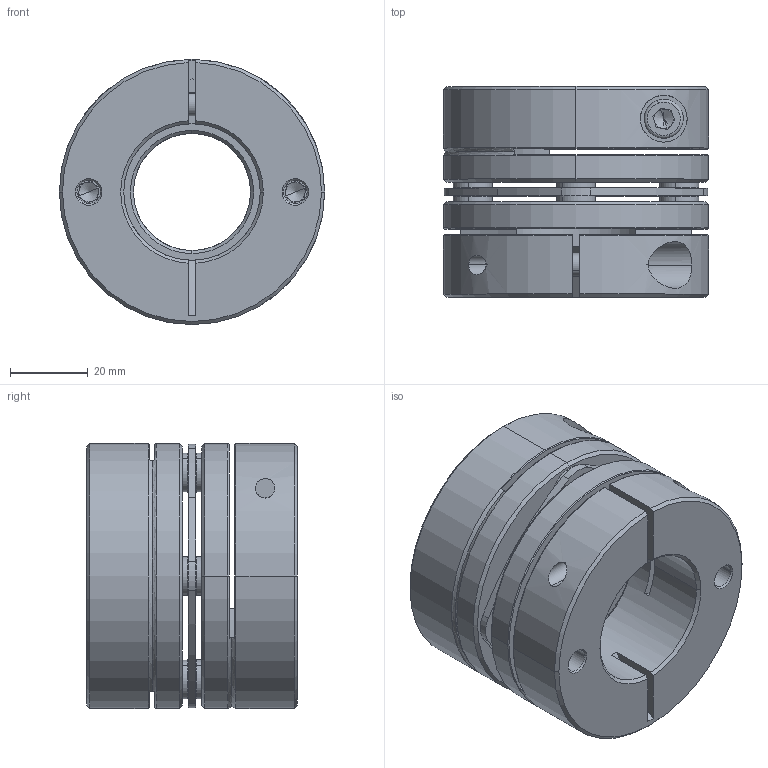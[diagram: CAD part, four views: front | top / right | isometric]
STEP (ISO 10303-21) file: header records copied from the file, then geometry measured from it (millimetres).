
FILE_DESCRIPTION (( 'STEP AP203' ), '1' );
FILE_NAME ('LD1-D68-30-35.STEP', '2021-10-26T08:03:58', ( '' ), ( '' ), 'SwSTEP 2.0', 'SolidWorks 2018', '' );
FILE_SCHEMA (( 'CONFIG_CONTROL_DESIGN' ));
Length unit declared in the file: millimetre
Products named in the file (2): 錨璃101^LD1-D68; LD1-D68-30-35
Assembly tree (1 placements, depth 2):
  LD1-D68-30-35
    錨璃101^LD1-D68
Bounding box: 68 x 54 x 68 mm (x, y, z)
Volume: 127234 mm3; surface area: 44464.6 mm2
Topology: 1 solids, 15 shells, 441 faces, 1047 edges, 642 vertices
Faces by surface type: cylinder 161, plane 136, cone 122, torus 22
Entity records: 13321 total; most frequent: CARTESIAN_POINT 2590, DIRECTION 2405, ORIENTED_EDGE 2062, EDGE_CURVE 1031, AXIS2_PLACEMENT_3D 977, VERTEX_POINT 642, CIRCLE 532, EDGE_LOOP 521
